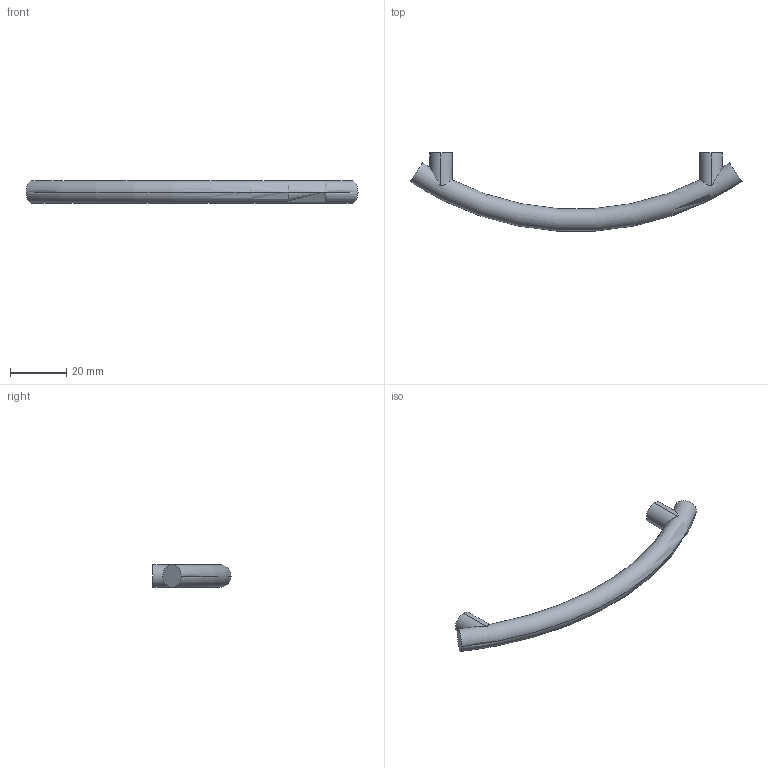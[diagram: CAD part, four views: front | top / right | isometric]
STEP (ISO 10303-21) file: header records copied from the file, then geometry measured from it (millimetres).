
FILE_DESCRIPTION( ( '' ), '1' );
FILE_NAME( 'C:/Documents and Settings/Sachin/Desktop/Sheet 10_1/stp/9070487.stp', '2013-10-22T08:47:58', ( '' ), ( '' ), ' ', ' ', ' ' );
FILE_SCHEMA( ( 'CONFIG_CONTROL_DESIGN' ) );
Length unit declared in the file: millimetre
Products named in the file (1): 1
Bounding box: 118 x 27.77 x 8 mm (x, y, z)
Volume: 6634.8 mm3; surface area: 3725.6 mm2
Topology: 1 solids, 1 shells, 20 faces, 50 edges, 34 vertices
Faces by surface type: plane 10, cylinder 8, torus 2
Entity records: 812 total; most frequent: CARTESIAN_POINT 277, DIRECTION 110, ORIENTED_EDGE 100, AXIS2_PLACEMENT_3D 51, EDGE_CURVE 50, VERTEX_POINT 34, CIRCLE 30, EDGE_LOOP 22
